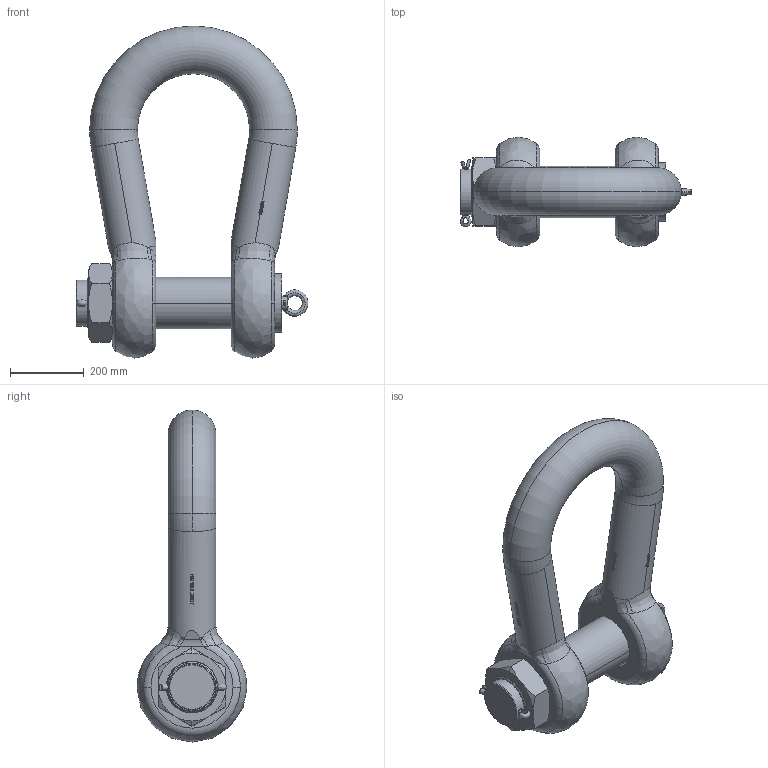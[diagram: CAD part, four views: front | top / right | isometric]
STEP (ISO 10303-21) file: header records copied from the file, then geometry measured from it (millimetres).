
FILE_DESCRIPTION(('STEP AP214'),'1');
FILE_NAME('hdgphm0250.stp','2017-06-30T09:24:57',('TraceParts'),('TraceParts S.A.'),'Spatial InterOp 3D',' ',' ');
FILE_SCHEMA(('automotive_design'));
Length unit declared in the file: millimetre
Products named in the file (5): HDGPHM0250|HDGPHM0250:1#HDGPHM0250;Solid1; hdgphm0250_3; hdgphm0250_4; hdgphm0250_5
Bounding box: 631.2 x 299 x 903.5 mm (x, y, z)
Volume: 38249789.8 mm3; surface area: 1454818.3 mm2
Topology: 5 solids, 5 shells, 1058 faces, 2919 edges, 1916 vertices
Faces by surface type: plane 404, cylinder 348, bspline 244, torus 36, cone 26
Entity records: 145647 total; most frequent: CARTESIAN_POINT 112399, ORIENTED_EDGE 5818, DIRECTION 4087, EDGE_CURVE 2909, VERTEX_POINT 1912, AXIS2_PLACEMENT_3D 1385, LINE 1317, VECTOR 1317
